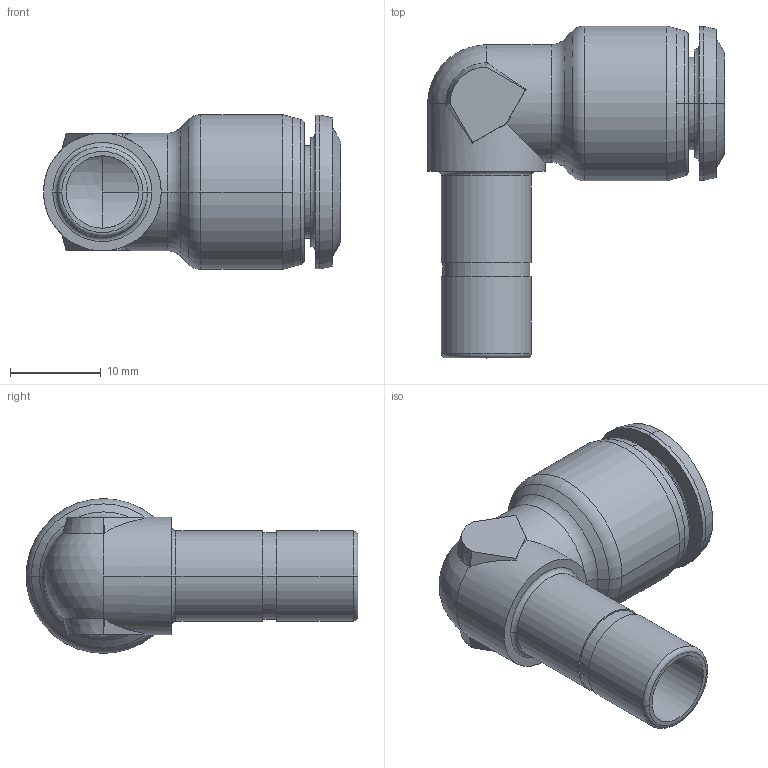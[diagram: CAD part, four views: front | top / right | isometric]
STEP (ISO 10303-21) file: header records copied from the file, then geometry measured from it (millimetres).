
FILE_DESCRIPTION (( 'STEP AP203' ), '1' );
FILE_NAME ('5514000009.step', '2016-07-22T09:12:16', ( 'ST01' ), ( '' ), 'SwSTEP 2.0', 'SolidWorks 2016', '' );
FILE_SCHEMA (( 'CONFIG_CONTROL_DESIGN' ));
Length unit declared in the file: millimetre
Products named in the file (1): 5514000009
Bounding box: 32.8 x 36.65 x 17.1 mm (x, y, z)
Surface area: 3620.6 mm2 (no closed solid volume)
Topology: 0 solids, 3 shells, 117 faces, 288 edges, 183 vertices
Faces by surface type: bspline 38, cone 25, plane 23, cylinder 18, torus 12, sphere 1
Entity records: 6268 total; most frequent: CARTESIAN_POINT 3786, ORIENTED_EDGE 554, DIRECTION 386, EDGE_CURVE 288, VERTEX_POINT 183, AXIS2_PLACEMENT_3D 166, B_SPLINE_CURVE_WITH_KNOTS 132, EDGE_LOOP 131
